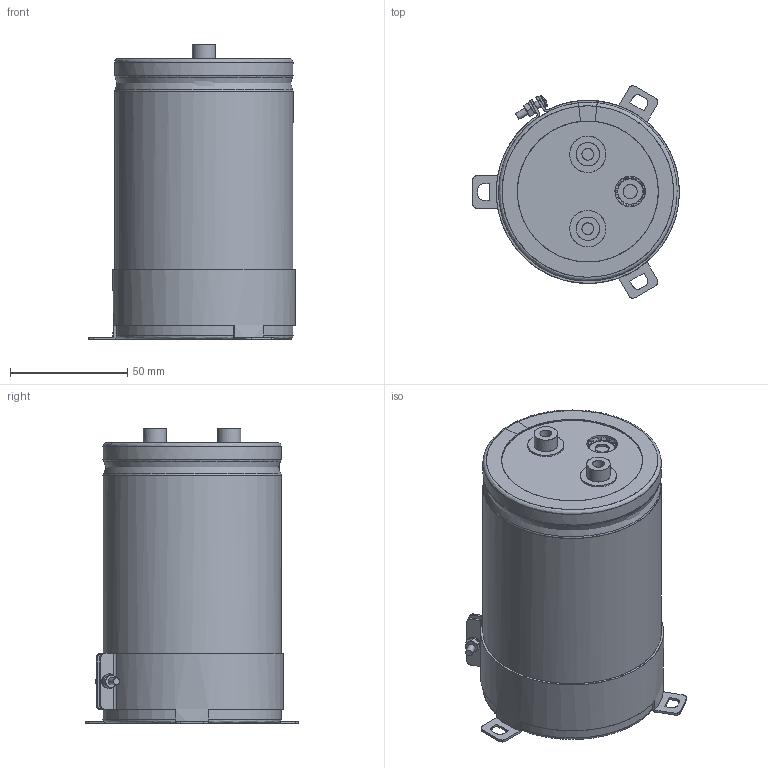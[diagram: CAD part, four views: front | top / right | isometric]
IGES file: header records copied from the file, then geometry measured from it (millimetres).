
Start section: JAMA-IS VERSION  1.0
Bounding box: 88.3 x 90.75 x 126 mm (x, y, z)
Surface area: 116438.5 mm2 (no closed solid volume)
Topology: 0 solids, 0 shells, 259 faces, 4448 edges, 4417 vertices
Faces by surface type: bspline 259
